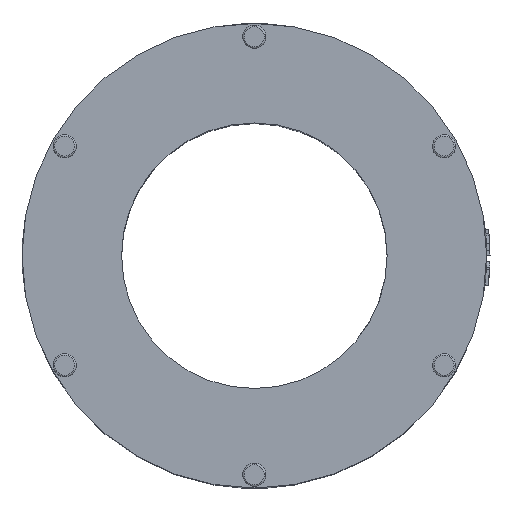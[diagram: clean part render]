
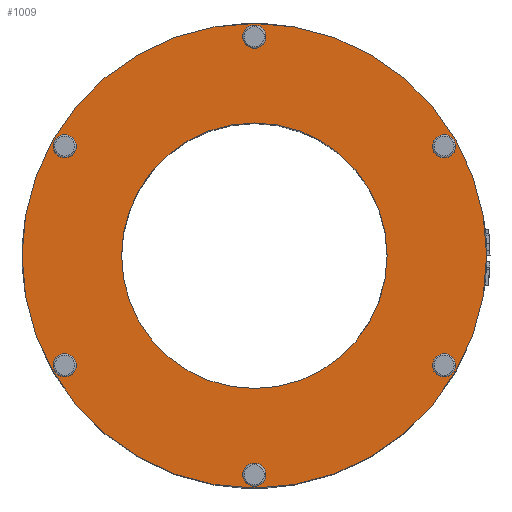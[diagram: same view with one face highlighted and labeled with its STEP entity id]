
A CAD part, top view. The second image highlights one B-rep face of the part: STEP entity #1009.
In plain terms, the highlighted planar face has unit normal (0, 0, 1).
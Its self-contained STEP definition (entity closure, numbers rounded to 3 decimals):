
#192=FACE_BOUND('',#1981,.T.);
#193=FACE_BOUND('',#1982,.T.);
#194=FACE_BOUND('',#1983,.T.);
#195=FACE_BOUND('',#1984,.T.);
#196=FACE_BOUND('',#1985,.T.);
#197=FACE_BOUND('',#1986,.T.);
#198=FACE_BOUND('',#1987,.T.);
#199=FACE_BOUND('',#1988,.T.);
#448=CIRCLE('',#7540,70.);
#464=CIRCLE('',#7560,40.);
#471=CIRCLE('',#7581,3.5);
#472=CIRCLE('',#7582,3.5);
#473=CIRCLE('',#7583,3.5);
#474=CIRCLE('',#7584,3.5);
#475=CIRCLE('',#7585,3.5);
#476=CIRCLE('',#7586,3.5);
#680=PLANE('',#7587);
#1009=ADVANCED_FACE('',(#192,#193,#194,#195,#196,#197,#198,#199),#680,.T.);
#1981=EDGE_LOOP('',(#4140));
#1982=EDGE_LOOP('',(#4141));
#1983=EDGE_LOOP('',(#4142));
#1984=EDGE_LOOP('',(#4143));
#1985=EDGE_LOOP('',(#4144));
#1986=EDGE_LOOP('',(#4145));
#1987=EDGE_LOOP('',(#4146));
#1988=EDGE_LOOP('',(#4147));
#4140=ORIENTED_EDGE('',*,*,#6235,.F.);
#4141=ORIENTED_EDGE('',*,*,#6236,.F.);
#4142=ORIENTED_EDGE('',*,*,#6237,.F.);
#4143=ORIENTED_EDGE('',*,*,#6238,.F.);
#4144=ORIENTED_EDGE('',*,*,#6239,.F.);
#4145=ORIENTED_EDGE('',*,*,#6240,.F.);
#4146=ORIENTED_EDGE('',*,*,#6217,.F.);
#4147=ORIENTED_EDGE('',*,*,#6178,.T.);
#5244=VERTEX_POINT('',#15528);
#5283=VERTEX_POINT('',#15877);
#5293=VERTEX_POINT('',#16027);
#5294=VERTEX_POINT('',#16029);
#5295=VERTEX_POINT('',#16031);
#5296=VERTEX_POINT('',#16033);
#5297=VERTEX_POINT('',#16035);
#5298=VERTEX_POINT('',#16037);
#6178=EDGE_CURVE('',#5244,#5244,#448,.T.);
#6217=EDGE_CURVE('',#5283,#5283,#464,.T.);
#6235=EDGE_CURVE('',#5293,#5293,#471,.T.);
#6236=EDGE_CURVE('',#5294,#5294,#472,.T.);
#6237=EDGE_CURVE('',#5295,#5295,#473,.T.);
#6238=EDGE_CURVE('',#5296,#5296,#474,.T.);
#6239=EDGE_CURVE('',#5297,#5297,#475,.T.);
#6240=EDGE_CURVE('',#5298,#5298,#476,.T.);
#7540=AXIS2_PLACEMENT_3D('',#15527,#8620,#8621);
#7560=AXIS2_PLACEMENT_3D('',#15876,#8676,#8677);
#7581=AXIS2_PLACEMENT_3D('',#16026,#8727,#8728);
#7582=AXIS2_PLACEMENT_3D('',#16028,#8729,#8730);
#7583=AXIS2_PLACEMENT_3D('',#16030,#8731,#8732);
#7584=AXIS2_PLACEMENT_3D('',#16032,#8733,#8734);
#7585=AXIS2_PLACEMENT_3D('',#16034,#8735,#8736);
#7586=AXIS2_PLACEMENT_3D('',#16036,#8737,#8738);
#7587=AXIS2_PLACEMENT_3D('',#16038,#8739,#8740);
#8620=DIRECTION('',(0.,0.,1.));
#8621=DIRECTION('',(1.,0.,0.));
#8676=DIRECTION('',(0.,0.,1.));
#8677=DIRECTION('',(1.,0.,0.));
#8727=DIRECTION('',(0.,0.,1.));
#8728=DIRECTION('',(0.5,-0.866,0.));
#8729=DIRECTION('',(0.,0.,1.));
#8730=DIRECTION('',(-0.5,-0.866,0.));
#8731=DIRECTION('',(0.,0.,1.));
#8732=DIRECTION('',(-1.,0.,0.));
#8733=DIRECTION('',(0.,0.,1.));
#8734=DIRECTION('',(-0.5,0.866,0.));
#8735=DIRECTION('',(0.,0.,1.));
#8736=DIRECTION('',(0.5,0.866,0.));
#8737=DIRECTION('',(0.,0.,1.));
#8738=DIRECTION('',(1.,0.,0.));
#8739=DIRECTION('',(0.,0.,1.));
#8740=DIRECTION('',(1.,0.,0.));
#15527=CARTESIAN_POINT('',(0.,0.,113.5));
#15528=CARTESIAN_POINT('',(70.,0.,113.5));
#15876=CARTESIAN_POINT('',(0.,0.,113.5));
#15877=CARTESIAN_POINT('',(40.,0.,113.5));
#16026=CARTESIAN_POINT('',(-57.158,-33.,113.5));
#16027=CARTESIAN_POINT('',(-55.408,-36.031,113.5));
#16028=CARTESIAN_POINT('',(-57.158,33.,113.5));
#16029=CARTESIAN_POINT('',(-58.908,29.969,113.5));
#16030=CARTESIAN_POINT('',(0.,66.,113.5));
#16031=CARTESIAN_POINT('',(-3.5,66.,113.5));
#16032=CARTESIAN_POINT('',(57.158,33.,113.5));
#16033=CARTESIAN_POINT('',(55.408,36.031,113.5));
#16034=CARTESIAN_POINT('',(57.158,-33.,113.5));
#16035=CARTESIAN_POINT('',(58.908,-29.969,113.5));
#16036=CARTESIAN_POINT('',(0.,-66.,113.5));
#16037=CARTESIAN_POINT('',(3.5,-66.,113.5));
#16038=CARTESIAN_POINT('',(0.,0.,113.5));
